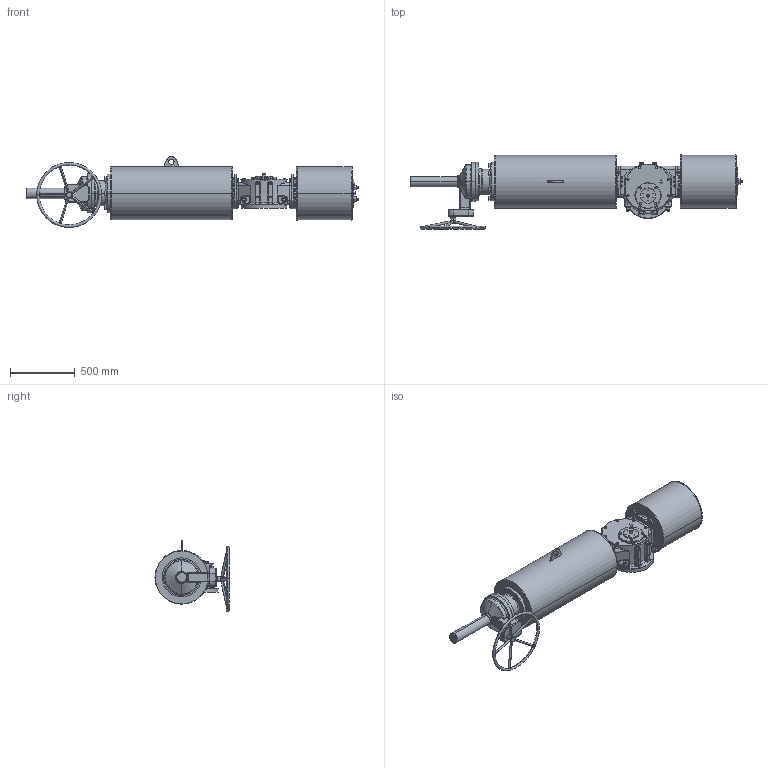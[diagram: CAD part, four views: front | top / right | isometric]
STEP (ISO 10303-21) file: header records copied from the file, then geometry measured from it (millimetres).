
FILE_DESCRIPTION (( 'STEP AP203' ), '1' );
FILE_NAME ('VTS4-400-SR-MG-FO.STEP', '2023-01-01T09:22:37', ( '' ), ( '' ), 'SwSTEP 2.0', 'SolidWorks 2020', '' );
FILE_SCHEMA (( 'CONFIG_CONTROL_DESIGN' ));
Length unit declared in the file: millimetre
Products named in the file (1): VTS4-400-SR-MG-FO
Bounding box: 2559.5 x 571.5 x 545.7 mm (x, y, z)
Volume: 221536329.6 mm3; surface area: 4564219 mm2
Topology: 18 solids, 21 shells, 2352 faces, 5928 edges, 3709 vertices
Faces by surface type: plane 885, cylinder 759, cone 489, bspline 150, torus 69
Entity records: 90075 total; most frequent: CARTESIAN_POINT 34681, ORIENTED_EDGE 11684, DIRECTION 11550, EDGE_CURVE 5842, AXIS2_PLACEMENT_3D 4601, VERTEX_POINT 3709, EDGE_LOOP 2635, CIRCLE 2398
